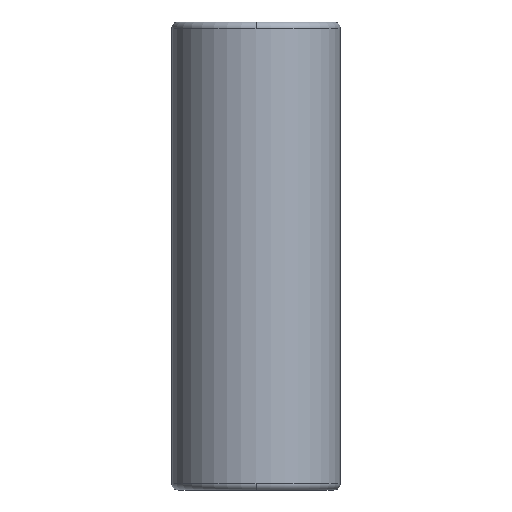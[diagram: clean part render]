
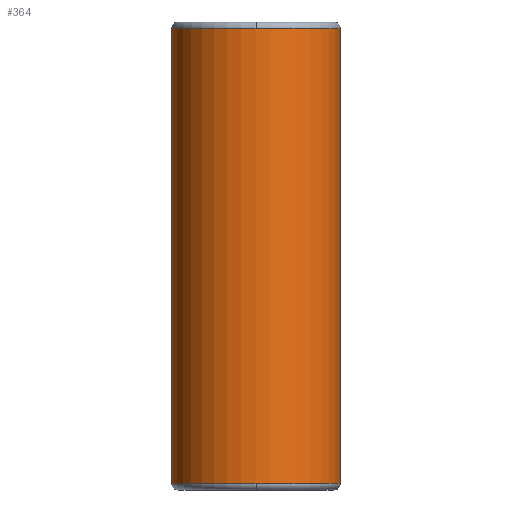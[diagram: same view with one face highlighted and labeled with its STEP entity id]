
A CAD part, front view. The second image highlights one B-rep face of the part: STEP entity #364.
In plain terms, the highlighted cylindrical face has radius 26.993 mm (diameter 53.986 mm), a partial arc.
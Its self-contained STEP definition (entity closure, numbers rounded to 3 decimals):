
#269=CARTESIAN_POINT('',(0.0,-26.993,148.0));
#270=VERTEX_POINT('',#269);
#296=CARTESIAN_POINT('',(-26.993,0.,148.0));
#297=VERTEX_POINT('',#296);
#305=CARTESIAN_POINT('',(0.0,0.,148.0));
#306=DIRECTION('',(0.0,0.0,1.0));
#307=DIRECTION('',(1.0,0.0,0.0));
#308=AXIS2_PLACEMENT_3D('',#305,#306,#307);
#309=CIRCLE('',#308,26.993);
#310=EDGE_CURVE('',#297,#270,#309,.T.);
#315=CARTESIAN_POINT('',(0.0,0.,75.0));
#316=DIRECTION('',(0.0,0.,1.0));
#317=DIRECTION('',(1.0,0.0,0.0));
#318=AXIS2_PLACEMENT_3D('',#315,#316,#317);
#319=CYLINDRICAL_SURFACE('',#318,26.993);
#320=CARTESIAN_POINT('',(26.993,0.,148.0));
#321=VERTEX_POINT('',#320);
#322=CARTESIAN_POINT('',(26.993,0.,2.));
#323=VERTEX_POINT('',#322);
#324=CARTESIAN_POINT('',(26.993,0.,148.0));
#325=DIRECTION('',(0.0,0.0,-1.0));
#326=VECTOR('',#325,146.0);
#327=LINE('',#324,#326);
#328=EDGE_CURVE('',#321,#323,#327,.T.);
#329=ORIENTED_EDGE('',*,*,#328,.F.);
#330=CARTESIAN_POINT('',(0.0,0.,148.0));
#331=DIRECTION('',(0.0,0.0,1.0));
#332=DIRECTION('',(1.0,0.0,0.0));
#333=AXIS2_PLACEMENT_3D('',#330,#331,#332);
#334=CIRCLE('',#333,26.993);
#335=EDGE_CURVE('',#270,#321,#334,.T.);
#336=ORIENTED_EDGE('',*,*,#335,.F.);
#337=ORIENTED_EDGE('',*,*,#310,.F.);
#338=CARTESIAN_POINT('',(-26.993,0.,2.0));
#339=VERTEX_POINT('',#338);
#340=CARTESIAN_POINT('',(-26.993,0.,148.0));
#341=DIRECTION('',(0.0,0.0,-1.0));
#342=VECTOR('',#341,146.0);
#343=LINE('',#340,#342);
#344=EDGE_CURVE('',#297,#339,#343,.T.);
#345=ORIENTED_EDGE('',*,*,#344,.T.);
#346=CARTESIAN_POINT('',(0.0,-26.993,2.));
#347=VERTEX_POINT('',#346);
#348=CARTESIAN_POINT('',(0.0,0.,2.0));
#349=DIRECTION('',(0.0,0.0,1.0));
#350=DIRECTION('',(1.0,0.0,0.0));
#351=AXIS2_PLACEMENT_3D('',#348,#349,#350);
#352=CIRCLE('',#351,26.993);
#353=EDGE_CURVE('',#339,#347,#352,.T.);
#354=ORIENTED_EDGE('',*,*,#353,.T.);
#355=CARTESIAN_POINT('',(0.0,0.,2.0));
#356=DIRECTION('',(0.0,0.0,1.0));
#357=DIRECTION('',(1.0,0.0,0.0));
#358=AXIS2_PLACEMENT_3D('',#355,#356,#357);
#359=CIRCLE('',#358,26.993);
#360=EDGE_CURVE('',#347,#323,#359,.T.);
#361=ORIENTED_EDGE('',*,*,#360,.T.);
#362=EDGE_LOOP('',(#329,#336,#337,#345,#354,#361));
#363=FACE_OUTER_BOUND('',#362,.T.);
#364=ADVANCED_FACE('',(#363),#319,.T.);
